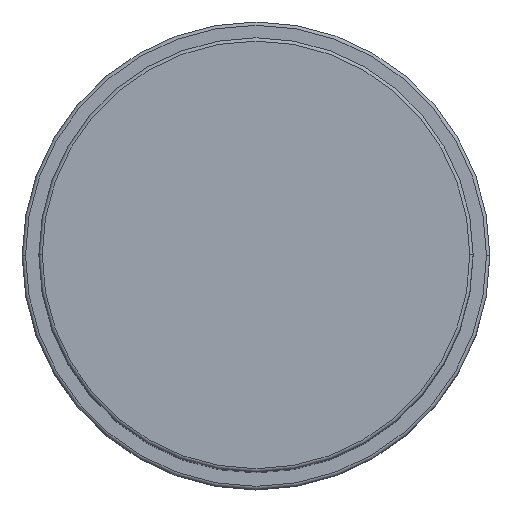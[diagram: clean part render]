
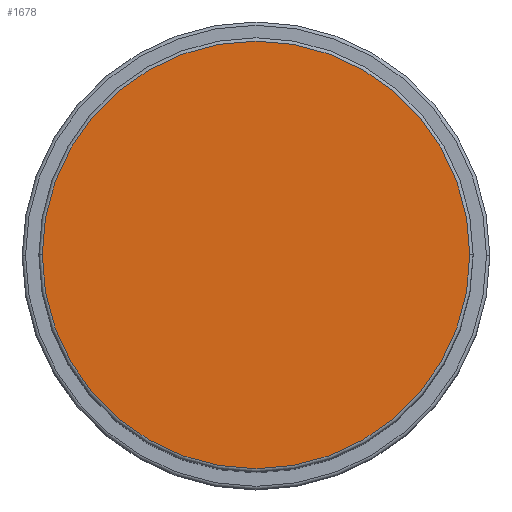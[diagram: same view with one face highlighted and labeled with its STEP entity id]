
A CAD part, top view. The second image highlights one B-rep face of the part: STEP entity #1678.
In plain terms, the highlighted planar face has unit normal (0, 0, 1).
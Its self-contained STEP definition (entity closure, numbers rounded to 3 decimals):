
#205 = CARTESIAN_POINT ( 'NONE',  ( -32., 0., 107. ) ) ;
#333 = VERTEX_POINT ( 'NONE', #847 ) ;
#387 = CARTESIAN_POINT ( 'NONE',  ( 0., 0., 107. ) ) ;
#518 = PLANE ( 'NONE',  #1128 ) ;
#650 = ORIENTED_EDGE ( 'NONE', *, *, #1766, .T. ) ;
#657 = DIRECTION ( 'NONE',  ( 1., 0., 0. ) ) ;
#659 = DIRECTION ( 'NONE',  ( 0., 0., 1. ) ) ;
#672 = CIRCLE ( 'NONE', #1169, 32. ) ;
#681 = EDGE_CURVE ( 'NONE', #333, #1712, #672, .T. ) ;
#797 = DIRECTION ( 'NONE',  ( 0., 0., 1. ) ) ;
#847 = CARTESIAN_POINT ( 'NONE',  ( 32., 0., 107. ) ) ;
#854 = FACE_OUTER_BOUND ( 'NONE', #1685, .T. ) ;
#925 = CARTESIAN_POINT ( 'NONE',  ( 0., 0., 107. ) ) ;
#1052 = DIRECTION ( 'NONE',  ( 0., 0., 1. ) ) ;
#1056 = CARTESIAN_POINT ( 'NONE',  ( 0., 0., 107. ) ) ;
#1080 = DIRECTION ( 'NONE',  ( 1., 0., 0. ) ) ;
#1128 = AXIS2_PLACEMENT_3D ( 'NONE', #925, #797, #657 ) ;
#1169 = AXIS2_PLACEMENT_3D ( 'NONE', #387, #659, #1475 ) ;
#1440 = CIRCLE ( 'NONE', #1462, 32. ) ;
#1450 = ORIENTED_EDGE ( 'NONE', *, *, #681, .T. ) ;
#1462 = AXIS2_PLACEMENT_3D ( 'NONE', #1056, #1052, #1080 ) ;
#1475 = DIRECTION ( 'NONE',  ( 1., 0., 0. ) ) ;
#1678 = ADVANCED_FACE ( 'NONE', ( #854 ), #518, .T. ) ;
#1685 = EDGE_LOOP ( 'NONE', ( #1450, #650 ) ) ;
#1712 = VERTEX_POINT ( 'NONE', #205 ) ;
#1766 = EDGE_CURVE ( 'NONE', #1712, #333, #1440, .T. ) ;
